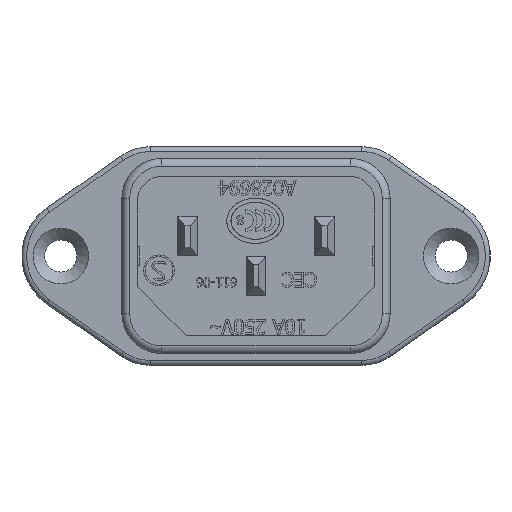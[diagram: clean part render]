
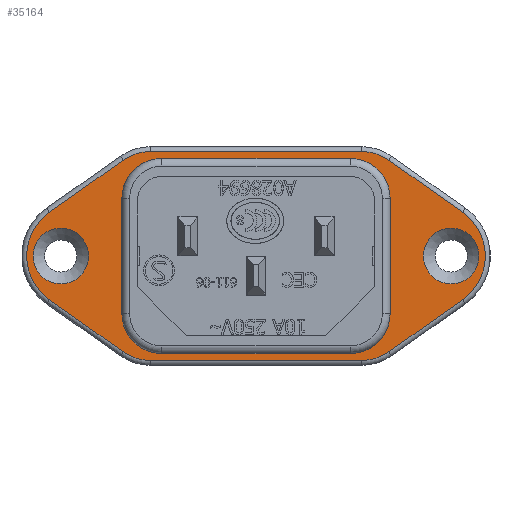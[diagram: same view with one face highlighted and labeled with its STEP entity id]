
A CAD part, front view. The second image highlights one B-rep face of the part: STEP entity #35164.
In plain terms, the highlighted planar face has unit normal (0, -1, 0).
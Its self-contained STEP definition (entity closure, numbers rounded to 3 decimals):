
#4205=LINE('',#50506,#8028);
#4209=LINE('',#50515,#8032);
#4217=LINE('',#50559,#8040);
#4219=LINE('',#50568,#8042);
#4226=LINE('',#50593,#8049);
#4228=LINE('',#50605,#8051);
#4231=LINE('',#50616,#8054);
#4233=LINE('',#50625,#8056);
#4250=LINE('',#50664,#8073);
#4251=LINE('',#50666,#8074);
#8028=VECTOR('',#41672,10.);
#8032=VECTOR('',#41682,10.);
#8040=VECTOR('',#41724,10.);
#8042=VECTOR('',#41736,10.);
#8049=VECTOR('',#41763,10.);
#8051=VECTOR('',#41777,10.);
#8054=VECTOR('',#41788,10.);
#8056=VECTOR('',#41800,10.);
#8073=VECTOR('',#41839,10.);
#8074=VECTOR('',#41842,10.);
#10786=FACE_BOUND('',#13483,.T.);
#10787=FACE_BOUND('',#13484,.T.);
#10788=FACE_BOUND('',#13485,.T.);
#11559=FACE_OUTER_BOUND('',#13482,.T.);
#13482=EDGE_LOOP('',(#26979,#26980,#26981,#26982,#26983,#26984,#26985,#26986,
#26987,#26988,#26989,#26990));
#13483=EDGE_LOOP('',(#26991));
#13484=EDGE_LOOP('',(#26992));
#13485=EDGE_LOOP('',(#26993,#26994,#26995,#26996,#26997,#26998,#26999,#27000));
#14980=CIRCLE('',#37279,2.85);
#14983=CIRCLE('',#37284,2.85);
#15002=CIRCLE('',#37314,4.1);
#15003=CIRCLE('',#37317,4.1);
#15006=CIRCLE('',#37322,4.8);
#15010=CIRCLE('',#37327,4.8);
#15016=CIRCLE('',#37335,5.5);
#15022=CIRCLE('',#37344,4.8);
#15024=CIRCLE('',#37349,4.8);
#15031=CIRCLE('',#37360,5.5);
#15036=CIRCLE('',#37373,4.1);
#15037=CIRCLE('',#37374,4.1);
#16280=VERTEX_POINT('',#50439);
#16283=VERTEX_POINT('',#50447);
#16302=VERTEX_POINT('',#50503);
#16303=VERTEX_POINT('',#50505);
#16304=VERTEX_POINT('',#50509);
#16305=VERTEX_POINT('',#50513);
#16306=VERTEX_POINT('',#50517);
#16315=VERTEX_POINT('',#50538);
#16316=VERTEX_POINT('',#50539);
#16319=VERTEX_POINT('',#50547);
#16320=VERTEX_POINT('',#50548);
#16324=VERTEX_POINT('',#50557);
#16326=VERTEX_POINT('',#50563);
#16330=VERTEX_POINT('',#50578);
#16332=VERTEX_POINT('',#50582);
#16335=VERTEX_POINT('',#50595);
#16336=VERTEX_POINT('',#50596);
#16342=VERTEX_POINT('',#50614);
#16344=VERTEX_POINT('',#50620);
#16353=VERTEX_POINT('',#50660);
#16354=VERTEX_POINT('',#50661);
#16355=VERTEX_POINT('',#50663);
#20154=EDGE_CURVE('',#16280,#16280,#14980,.T.);
#20157=EDGE_CURVE('',#16283,#16283,#14983,.T.);
#20185=EDGE_CURVE('',#16303,#16302,#4205,.T.);
#20188=EDGE_CURVE('',#16302,#16304,#15002,.T.);
#20190=EDGE_CURVE('',#16304,#16305,#4209,.T.);
#20192=EDGE_CURVE('',#16305,#16306,#15003,.T.);
#20201=EDGE_CURVE('',#16315,#16316,#15006,.T.);
#20205=EDGE_CURVE('',#16319,#16320,#15010,.T.);
#20210=EDGE_CURVE('',#16324,#16315,#4217,.T.);
#20213=EDGE_CURVE('',#16326,#16324,#15016,.T.);
#20215=EDGE_CURVE('',#16320,#16326,#4219,.T.);
#20223=EDGE_CURVE('',#16332,#16330,#15022,.T.);
#20228=EDGE_CURVE('',#16316,#16332,#4226,.T.);
#20229=EDGE_CURVE('',#16335,#16336,#15024,.T.);
#20234=EDGE_CURVE('',#16336,#16319,#4228,.T.);
#20239=EDGE_CURVE('',#16342,#16335,#4231,.T.);
#20242=EDGE_CURVE('',#16344,#16342,#15031,.T.);
#20244=EDGE_CURVE('',#16330,#16344,#4233,.T.);
#20264=EDGE_CURVE('',#16353,#16354,#15036,.T.);
#20265=EDGE_CURVE('',#16354,#16355,#4250,.T.);
#20266=EDGE_CURVE('',#16355,#16303,#15037,.T.);
#20267=EDGE_CURVE('',#16306,#16353,#4251,.T.);
#26979=ORIENTED_EDGE('',*,*,#20229,.F.);
#26980=ORIENTED_EDGE('',*,*,#20239,.F.);
#26981=ORIENTED_EDGE('',*,*,#20242,.F.);
#26982=ORIENTED_EDGE('',*,*,#20244,.F.);
#26983=ORIENTED_EDGE('',*,*,#20223,.F.);
#26984=ORIENTED_EDGE('',*,*,#20228,.F.);
#26985=ORIENTED_EDGE('',*,*,#20201,.F.);
#26986=ORIENTED_EDGE('',*,*,#20210,.F.);
#26987=ORIENTED_EDGE('',*,*,#20213,.F.);
#26988=ORIENTED_EDGE('',*,*,#20215,.F.);
#26989=ORIENTED_EDGE('',*,*,#20205,.F.);
#26990=ORIENTED_EDGE('',*,*,#20234,.F.);
#26991=ORIENTED_EDGE('',*,*,#20154,.T.);
#26992=ORIENTED_EDGE('',*,*,#20157,.T.);
#26993=ORIENTED_EDGE('',*,*,#20264,.T.);
#26994=ORIENTED_EDGE('',*,*,#20265,.T.);
#26995=ORIENTED_EDGE('',*,*,#20266,.T.);
#26996=ORIENTED_EDGE('',*,*,#20185,.T.);
#26997=ORIENTED_EDGE('',*,*,#20188,.T.);
#26998=ORIENTED_EDGE('',*,*,#20190,.T.);
#26999=ORIENTED_EDGE('',*,*,#20192,.T.);
#27000=ORIENTED_EDGE('',*,*,#20267,.T.);
#33672=PLANE('',#37372);
#35164=ADVANCED_FACE('',(#11559,#10786,#10787,#10788),#33672,.T.);
#37279=AXIS2_PLACEMENT_3D('',#50440,#41595,#41596);
#37284=AXIS2_PLACEMENT_3D('',#50448,#41605,#41606);
#37314=AXIS2_PLACEMENT_3D('',#50511,#41677,#41678);
#37317=AXIS2_PLACEMENT_3D('',#50519,#41686,#41687);
#37322=AXIS2_PLACEMENT_3D('',#50540,#41702,#41703);
#37327=AXIS2_PLACEMENT_3D('',#50549,#41712,#41713);
#37335=AXIS2_PLACEMENT_3D('',#50565,#41730,#41731);
#37344=AXIS2_PLACEMENT_3D('',#50584,#41752,#41753);
#37349=AXIS2_PLACEMENT_3D('',#50597,#41766,#41767);
#37360=AXIS2_PLACEMENT_3D('',#50622,#41794,#41795);
#37372=AXIS2_PLACEMENT_3D('',#50659,#41835,#41836);
#37373=AXIS2_PLACEMENT_3D('',#50662,#41837,#41838);
#37374=AXIS2_PLACEMENT_3D('',#50665,#41840,#41841);
#41595=DIRECTION('center_axis',(0.,1.,0.));
#41596=DIRECTION('ref_axis',(1.,0.,0.));
#41605=DIRECTION('center_axis',(0.,1.,0.));
#41606=DIRECTION('ref_axis',(1.,0.,0.));
#41672=DIRECTION('',(-1.,0.,0.));
#41677=DIRECTION('center_axis',(0.,1.,0.));
#41678=DIRECTION('ref_axis',(1.,0.,0.));
#41682=DIRECTION('',(0.,0.,1.));
#41686=DIRECTION('center_axis',(0.,1.,0.));
#41687=DIRECTION('ref_axis',(0.,0.,
-1.));
#41702=DIRECTION('center_axis',(0.,1.,0.));
#41703=DIRECTION('ref_axis',(-0.302,0.,0.953));
#41712=DIRECTION('center_axis',(0.,1.,0.));
#41713=DIRECTION('ref_axis',(-0.302,0.,-0.953));
#41724=DIRECTION('',(0.818,0.,0.576));
#41730=DIRECTION('center_axis',(0.,1.,0.));
#41731=DIRECTION('ref_axis',(-1.,0.,0.));
#41736=DIRECTION('',(-0.818,0.,0.576));
#41752=DIRECTION('center_axis',(0.,1.,0.));
#41753=DIRECTION('ref_axis',(0.302,0.,0.953));
#41763=DIRECTION('',(1.,0.,0.));
#41766=DIRECTION('center_axis',(0.,1.,0.));
#41767=DIRECTION('ref_axis',(0.302,0.,-0.953));
#41777=DIRECTION('',(-1.,0.,0.));
#41788=DIRECTION('',(-0.818,0.,-0.576));
#41794=DIRECTION('center_axis',(0.,1.,0.));
#41795=DIRECTION('ref_axis',(1.,0.,0.));
#41800=DIRECTION('',(0.818,0.,-0.576));
#41835=DIRECTION('center_axis',(0.,-1.,0.));
#41836=DIRECTION('ref_axis',(1.,0.,0.));
#41837=DIRECTION('center_axis',(0.,1.,0.));
#41838=DIRECTION('ref_axis',(-1.,0.,0.));
#41839=DIRECTION('',(0.,0.,-1.));
#41840=DIRECTION('center_axis',(0.,1.,0.));
#41841=DIRECTION('ref_axis',(0.,0.,
1.));
#41842=DIRECTION('',(1.,0.,0.));
#50439=CARTESIAN_POINT('',(-27.253,-19.468,-10.928));
#50440=CARTESIAN_POINT('Origin',(-30.103,-19.468,-10.928));
#50447=CARTESIAN_POINT('',(12.747,-19.468,-10.928));
#50448=CARTESIAN_POINT('Origin',(9.897,-19.468,-10.928));
#50503=CARTESIAN_POINT('',(-19.753,-19.468,-20.928));
#50505=CARTESIAN_POINT('',(-0.453,-19.468,-20.928));
#50506=CARTESIAN_POINT('',(-0.453,-19.468,-20.928));
#50509=CARTESIAN_POINT('',(-23.853,-19.468,-16.828));
#50511=CARTESIAN_POINT('Origin',(-19.753,-19.468,-16.828));
#50513=CARTESIAN_POINT('',(-23.853,-19.468,-5.028));
#50515=CARTESIAN_POINT('',(-23.853,-19.468,-16.828));
#50517=CARTESIAN_POINT('',(-19.753,-19.468,-0.928));
#50519=CARTESIAN_POINT('Origin',(-19.753,-19.468,-5.028));
#50538=CARTESIAN_POINT('',(-23.703,-19.468,-1.103));
#50539=CARTESIAN_POINT('',(-20.94,-19.468,-0.228));
#50540=CARTESIAN_POINT('Origin',(-20.94,-19.468,-5.028));
#50547=CARTESIAN_POINT('',(-20.94,-19.468,-21.628));
#50548=CARTESIAN_POINT('',(-23.703,-19.468,-20.752));
#50549=CARTESIAN_POINT('Origin',(-20.94,-19.468,-16.828));
#50557=CARTESIAN_POINT('',(-31.27,-19.468,-6.431));
#50559=CARTESIAN_POINT('',(-25.253,-19.468,-2.194));
#50563=CARTESIAN_POINT('',(-31.27,-19.468,-15.425));
#50565=CARTESIAN_POINT('Origin',(-28.103,-19.468,-10.928));
#50568=CARTESIAN_POINT('',(-20.783,-19.468,-22.809));
#50578=CARTESIAN_POINT('',(3.497,-19.468,-1.103));
#50582=CARTESIAN_POINT('',(0.733,-19.468,-0.228));
#50584=CARTESIAN_POINT('Origin',(0.733,-19.468,-5.028));
#50593=CARTESIAN_POINT('',(-21.603,-19.468,-0.228));
#50595=CARTESIAN_POINT('',(3.497,-19.468,-20.752));
#50596=CARTESIAN_POINT('',(0.733,-19.468,-21.628));
#50597=CARTESIAN_POINT('Origin',(0.733,-19.468,-16.828));
#50605=CARTESIAN_POINT('',(1.397,-19.468,-21.628));
#50614=CARTESIAN_POINT('',(11.063,-19.468,-15.425));
#50616=CARTESIAN_POINT('',(0.577,-19.468,-22.809));
#50620=CARTESIAN_POINT('',(11.063,-19.468,-6.431));
#50622=CARTESIAN_POINT('Origin',(7.897,-19.468,-10.928));
#50625=CARTESIAN_POINT('',(5.046,-19.468,-2.194));
#50659=CARTESIAN_POINT('Origin',(-10.103,-19.468,-10.928));
#50660=CARTESIAN_POINT('',(-0.453,-19.468,-0.928));
#50661=CARTESIAN_POINT('',(3.647,-19.468,-5.028));
#50662=CARTESIAN_POINT('Origin',(-0.453,-19.468,-5.028));
#50663=CARTESIAN_POINT('',(3.647,-19.468,-16.828));
#50664=CARTESIAN_POINT('',(3.647,-19.468,-5.028));
#50665=CARTESIAN_POINT('Origin',(-0.453,-19.468,-16.828));
#50666=CARTESIAN_POINT('',(-19.753,-19.468,-0.928));
